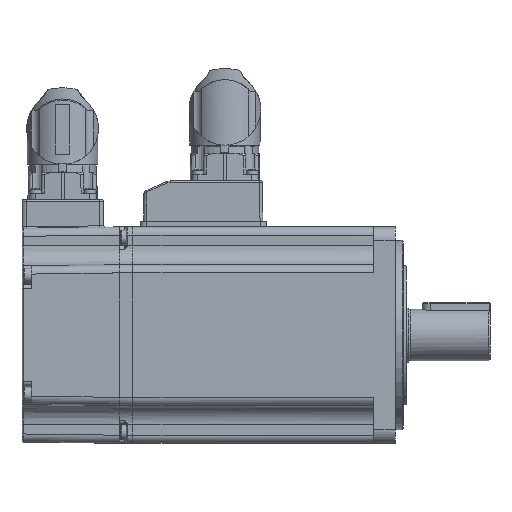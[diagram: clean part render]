
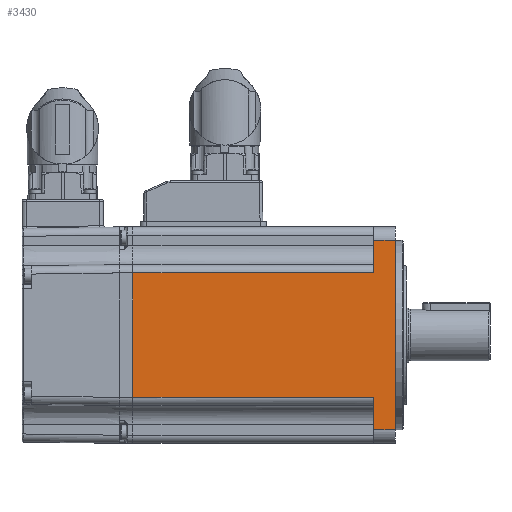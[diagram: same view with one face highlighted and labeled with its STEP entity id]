
A CAD part, left-side view. The second image highlights one B-rep face of the part: STEP entity #3430.
In plain terms, the highlighted planar face has unit normal (-1, 0, 0).
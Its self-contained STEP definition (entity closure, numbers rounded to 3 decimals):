
#3430 = ADVANCED_FACE( '', ( #8874 ), #8875, .T. );
#8874 = FACE_OUTER_BOUND( '', #18565, .T. );
#8875 = PLANE( '', #18566 );
#18565 = EDGE_LOOP( '', ( #36742, #36743, #36744, #36745, #36746, #36747, #36748, #36749, #36750, #36751 ) );
#18566 = AXIS2_PLACEMENT_3D( '', #36752, #36753, #36754 );
#36742 = ORIENTED_EDGE( '', *, *, #56035, .F. );
#36743 = ORIENTED_EDGE( '', *, *, #56036, .T. );
#36744 = ORIENTED_EDGE( '', *, *, #54779, .F. );
#36745 = ORIENTED_EDGE( '', *, *, #56037, .T. );
#36746 = ORIENTED_EDGE( '', *, *, #56038, .F. );
#36747 = ORIENTED_EDGE( '', *, *, #56039, .T. );
#36748 = ORIENTED_EDGE( '', *, *, #56040, .F. );
#36749 = ORIENTED_EDGE( '', *, *, #54151, .T. );
#36750 = ORIENTED_EDGE( '', *, *, #56041, .F. );
#36751 = ORIENTED_EDGE( '', *, *, #54499, .F. );
#36752 = CARTESIAN_POINT( '', ( -40., 188.347, 40. ) );
#36753 = DIRECTION( '', ( -1., 0., 0. ) );
#36754 = DIRECTION( '', ( 0., 0., 1. ) );
#54151 = EDGE_CURVE( '', #63541, #63538, #63542, .T. );
#54499 = EDGE_CURVE( '', #64154, #64146, #64156, .T. );
#54779 = EDGE_CURVE( '', #64628, #64630, #64631, .T. );
#56035 = EDGE_CURVE( '', #66696, #64154, #66697, .T. );
#56036 = EDGE_CURVE( '', #66696, #64630, #66698, .F. );
#56037 = EDGE_CURVE( '', #64628, #66699, #66700, .T. );
#56038 = EDGE_CURVE( '', #66701, #66699, #66702, .T. );
#56039 = EDGE_CURVE( '', #66701, #66703, #66704, .F. );
#56040 = EDGE_CURVE( '', #63541, #66703, #66705, .T. );
#56041 = EDGE_CURVE( '', #64146, #63538, #66706, .T. );
#63538 = VERTEX_POINT( '', #78869 );
#63541 = VERTEX_POINT( '', #78872 );
#63542 = LINE( '', #78873, #78874 );
#64146 = VERTEX_POINT( '', #80178 );
#64154 = VERTEX_POINT( '', #80190 );
#64156 = LINE( '', #80193, #80194 );
#64628 = VERTEX_POINT( '', #81115 );
#64630 = VERTEX_POINT( '', #81117 );
#64631 = LINE( '', #81118, #81119 );
#66696 = VERTEX_POINT( '', #85697 );
#66697 = LINE( '', #85698, #85699 );
#66698 = LINE( '', #85700, #85701 );
#66699 = VERTEX_POINT( '', #85702 );
#66700 = LINE( '', #85703, #85704 );
#66701 = VERTEX_POINT( '', #85705 );
#66702 = LINE( '', #85706, #85707 );
#66703 = VERTEX_POINT( '', #85708 );
#66704 = LINE( '', #85709, #85710 );
#66705 = LINE( '', #85711, #85712 );
#66706 = LINE( '', #85713, #85714 );
#78869 = CARTESIAN_POINT( '', ( -40., 88.311, 23. ) );
#78872 = CARTESIAN_POINT( '', ( -40., -0.689, 23. ) );
#78873 = CARTESIAN_POINT( '', ( -40., 188.347, 23. ) );
#78874 = VECTOR( '', #103926, 1000. );
#80178 = CARTESIAN_POINT( '', ( -40., 88.311, 0.001 ) );
#80190 = CARTESIAN_POINT( '', ( -40., 88.311, 0. ) );
#80193 = CARTESIAN_POINT( '', ( -40., 88.311, 40. ) );
#80194 = VECTOR( '', #104294, 1000. );
#81115 = CARTESIAN_POINT( '', ( -40., -0.689, -35. ) );
#81117 = CARTESIAN_POINT( '', ( -40., -0.689, -23. ) );
#81118 = CARTESIAN_POINT( '', ( -40., -0.689, 40. ) );
#81119 = VECTOR( '', #104660, 1000. );
#85697 = CARTESIAN_POINT( '', ( -40., 88.311, -23. ) );
#85698 = CARTESIAN_POINT( '', ( -40., 88.311, 40. ) );
#85699 = VECTOR( '', #106242, 1000. );
#85700 = CARTESIAN_POINT( '', ( -40., 188.347, -23. ) );
#85701 = VECTOR( '', #106243, 1000. );
#85702 = CARTESIAN_POINT( '', ( -40., -8.689, -35. ) );
#85703 = CARTESIAN_POINT( '', ( -40., 188.347, -35. ) );
#85704 = VECTOR( '', #106244, 1000. );
#85705 = CARTESIAN_POINT( '', ( -40., -8.689, 35. ) );
#85706 = CARTESIAN_POINT( '', ( -40., -8.689, 40. ) );
#85707 = VECTOR( '', #106245, 1000. );
#85708 = CARTESIAN_POINT( '', ( -40., -0.689, 35. ) );
#85709 = CARTESIAN_POINT( '', ( -40., 188.347, 35. ) );
#85710 = VECTOR( '', #106246, 1000. );
#85711 = CARTESIAN_POINT( '', ( -40., -0.689, 40. ) );
#85712 = VECTOR( '', #106247, 1000. );
#85713 = CARTESIAN_POINT( '', ( -40., 88.311, 40. ) );
#85714 = VECTOR( '', #106248, 1000. );
#103926 = DIRECTION( '', ( 0., 1., 0. ) );
#104294 = DIRECTION( '', ( 0., 0., 1. ) );
#104660 = DIRECTION( '', ( 0., 0., 1. ) );
#106242 = DIRECTION( '', ( 0., 0., 1. ) );
#106243 = DIRECTION( '', ( 0., 1., 0. ) );
#106244 = DIRECTION( '', ( 0., -1., 0. ) );
#106245 = DIRECTION( '', ( 0., 0., -1. ) );
#106246 = DIRECTION( '', ( 0., -1., 0. ) );
#106247 = DIRECTION( '', ( 0., 0., 1. ) );
#106248 = DIRECTION( '', ( 0., 0., 1. ) );
